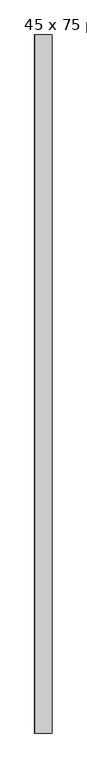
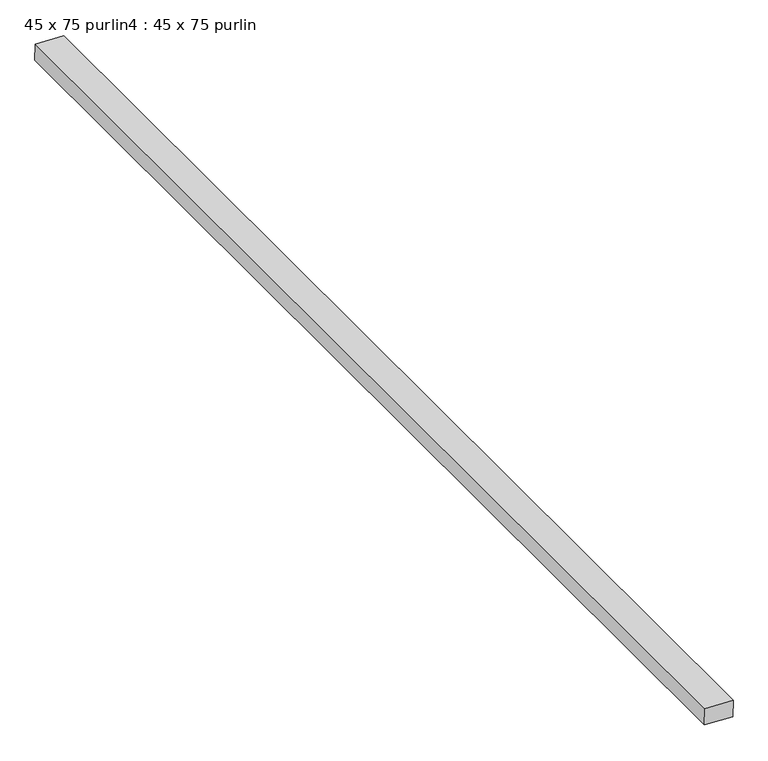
"""IFC4 building model written with IfcOpenShell, lengths in millimetres: proxy geometry, 45 x 75 purlin4 : 45 x 75 purlin."""

from ifc_helpers import new_model, si_unit, frame, origin, place, context, project, spatial, polyline, outline, extrude, source, transform, mapped, element, save


def proxy_45_x_75_purlin4_45_x_75_purlin_212eab0b(model_context):
    return source(origin(), model_context, "Body", "SweptSolid", [
        extrude(outline(polyline([(0.0, -75.0), (0.0, 0.0), (3090.0, 0.0), (3090.0, -75.0), (0.0, -75.0)])), frame((-28435.842864, -23331.8867613, 3815.1344487), z_axis=(0.03489949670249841, 0.0, 0.9993908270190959), x_axis=(0.0, 1.0, 0.0)), (0.0, 0.0, 1.0), 45.0),
    ])


if __name__ == "__main__":
    model = new_model("IFC4")
    model_context = context("Model", 3, world=origin())
    ifc_project = project(units=[si_unit("LENGTHUNIT", "METRE", prefix="MILLI")], contexts=[model_context])
    site = spatial("IfcSite", under=ifc_project)
    building = spatial("IfcBuilding", under=site)
    placement = place(None, origin())
    proxy_45_x_75_purlin4_45_x_75_purlin_shape = proxy_45_x_75_purlin4_45_x_75_purlin_212eab0b(model_context)
    element("IfcBuildingElementProxy", 1, Name="45 x 75 purlin4 : 45 x 75 purlin", ObjectType="45 x 75 purlin4 : 45 x 75 purlin", at=placement, inside=building, context=model_context, shape_type="MappedRepresentation", body=[
        mapped(proxy_45_x_75_purlin4_45_x_75_purlin_shape, transform((0.0, 0.0, 0.0), x_axis=(1.0, 0.0, 0.0), y_axis=(0.0, 1.0, 0.0), z_axis=(0.0, 0.0, 1.0))),
    ])
    save(model, "model.ifc")
